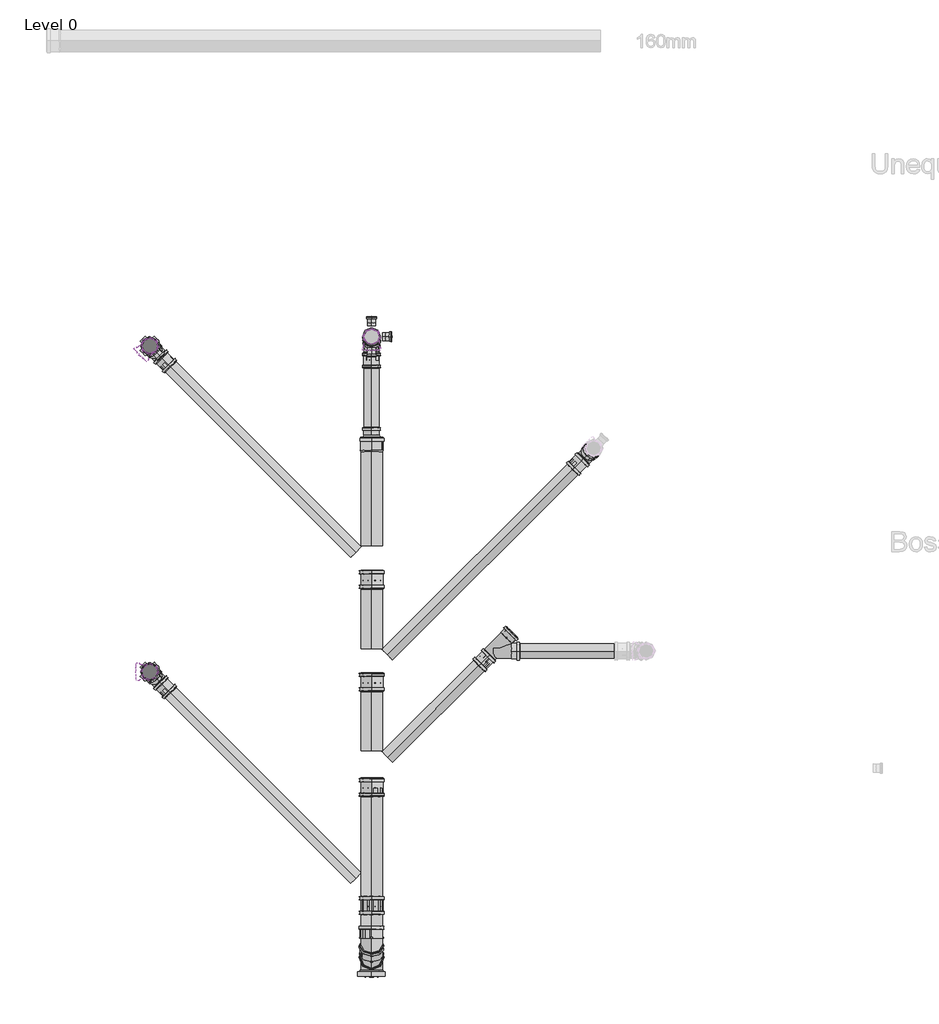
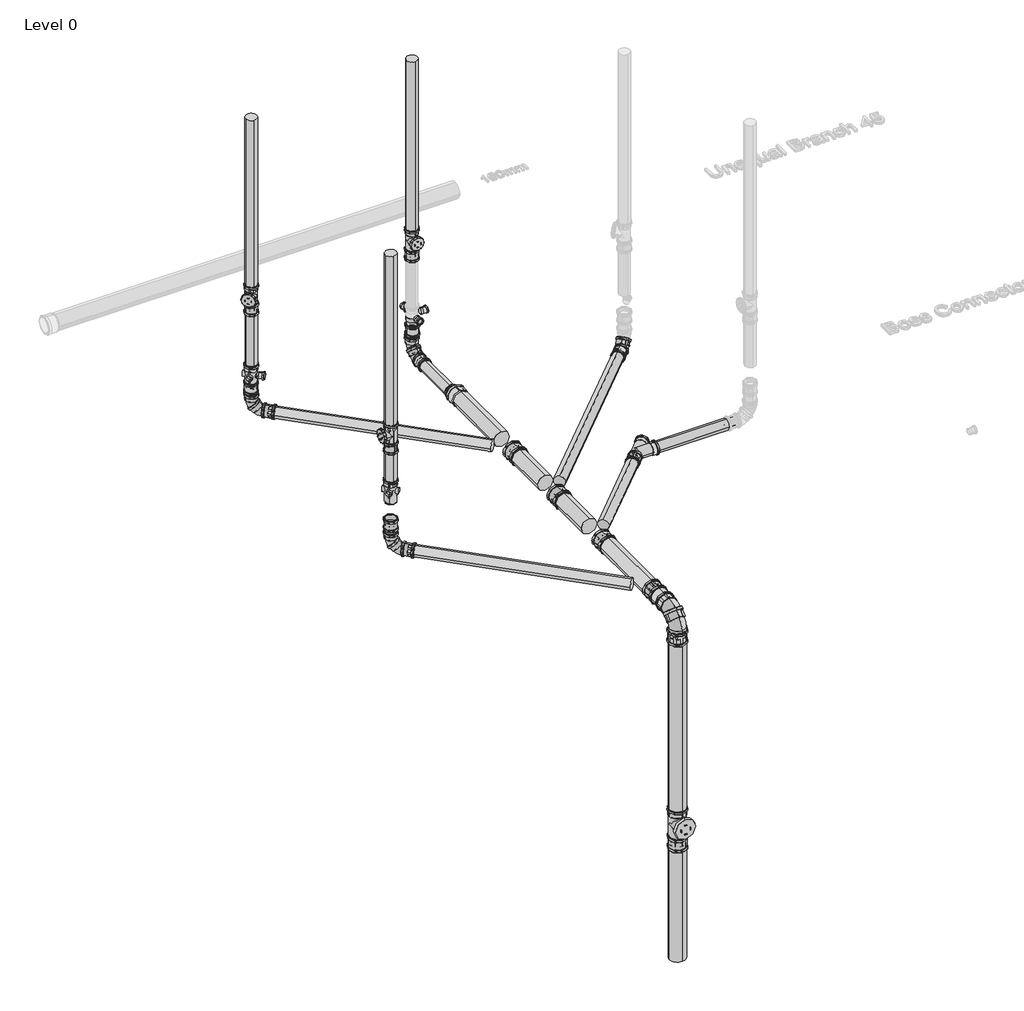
# One storey, part 1 of 15: 71 pipe fittings.
"""IFC4 building model written with IfcOpenShell, lengths in millimetres."""

from ifc_helpers import new_model, si_unit, point, frame, frame_2d, origin, place, context, project, spatial, circle_curve, trimmed, segment, composite_curve, outline, extrude, transform, mapped, element, save
from components import pipe_fitting_d93e64ae, pipe_fitting_af558869, pipe_fitting_f7358239, pipe_fitting_485433b0, pipe_fitting_680307cb, pipe_fitting_c605c0b5, pipe_fitting_f85930d2, pipe_fitting_5ae2cbee, pipe_fitting_27dfb203, pipe_fitting_538f6d23, pipe_fitting_d6a3997c, sa420xbl_50mm_blue_6babe31f

model = new_model("IFC4")

# Units and contexts
model_context = context("Model", 3, world=origin())
ifc_project = project(units=[si_unit("LENGTHUNIT", "METRE", prefix="MILLI")], contexts=[model_context])

# Site, building, storey
site = spatial("IfcSite", under=ifc_project)
building = spatial("IfcBuilding", under=site)
storey = spatial("IfcBuildingStorey", under=building, Name="Level 0", Elevation=0.0)

# Pipe fittings
placement = place(None, origin())
element("IfcPipeFitting", 1, ObjectType="Marley dBlue - PP Push-fit soil - Blue", at=placement, inside=storey, context=model_context, shape_type="SweptSolid", body=[
    extrude(outline(composite_curve([segment(trimmed(circle_curve(frame_2d((228.0709445, -25599.2159271)), 80.0), [point((228.0709445, -25519.2159271))], [point((308.0709445, -25599.2159271))], False, "CARTESIAN"), True, "CONTINUOUS"), segment(trimmed(circle_curve(frame_2d((228.0709445, -25599.2159271)), 80.0), [point((308.0709445, -25599.2159271))], [point((228.0709445, -25679.2159271))], False, "CARTESIAN"), True, "CONTINUOUS"), segment(trimmed(circle_curve(frame_2d((228.0709445, -25599.2159271)), 80.0), [point((228.0709445, -25679.2159271))], [point((148.0709445, -25599.2159271))], False, "CARTESIAN"), True, "CONTINUOUS"), segment(trimmed(circle_curve(frame_2d((228.0709445, -25599.2159271)), 80.0), [point((148.0709445, -25599.2159271))], [point((228.0709445, -25519.2159271))], False, "CARTESIAN"), True, "CONTINUOUS")], self_intersect=False)), frame((0.0, 3746.7145219, 0.0), z_axis=(0.0, 1.0, 0.0), x_axis=(0.0, 0.0, 1.0)), (0.0, 0.0, 1.0), 696.8955071),
])
element("IfcPipeFitting", 2, ObjectType="Marley dBlue - PP Push-fit soil - Blue", at=placement, inside=storey, context=model_context, shape_type="SweptSolid", body=[
    extrude(outline(composite_curve([segment(trimmed(circle_curve(frame_2d((203.0709445, -25599.2159271)), 55.0), [point((203.0709445, -25544.2159271))], [point((258.0709445, -25599.2159271))], False, "CARTESIAN"), True, "CONTINUOUS"), segment(trimmed(circle_curve(frame_2d((203.0709445, -25599.2159271)), 55.0), [point((258.0709445, -25599.2159271))], [point((203.0709445, -25654.2159271))], False, "CARTESIAN"), True, "CONTINUOUS"), segment(trimmed(circle_curve(frame_2d((203.0709445, -25599.2159271)), 55.0), [point((203.0709445, -25654.2159271))], [point((148.0709445, -25599.2159271))], False, "CARTESIAN"), True, "CONTINUOUS"), segment(trimmed(circle_curve(frame_2d((203.0709445, -25599.2159271)), 55.0), [point((148.0709445, -25599.2159271))], [point((203.0709445, -25544.2159271))], False, "CARTESIAN"), True, "CONTINUOUS")], self_intersect=False)), frame((0.0, 4569.610029, 0.0), z_axis=(0.0, 1.0, 0.0), x_axis=(0.0, 0.0, 1.0)), (0.0, 0.0, 1.0), 553.8617476),
])
element("IfcPipeFitting", 3, ObjectType="Marley dBlue - PP Push-fit soil - Blue", at=placement, inside=storey, context=model_context, shape_type="SweptSolid", body=[
    extrude(outline(composite_curve([segment(trimmed(circle_curve(frame_2d((-25599.2159271, 5296.9389094)), 55.0), [point((-25654.2159271, 5296.9389094))], [point((-25599.2159271, 5351.9389094))], False, "CARTESIAN"), True, "CONTINUOUS"), segment(trimmed(circle_curve(frame_2d((-25599.2159271, 5296.9389094)), 55.0), [point((-25599.2159271, 5351.9389094))], [point((-25544.2159271, 5296.9389094))], False, "CARTESIAN"), True, "CONTINUOUS"), segment(trimmed(circle_curve(frame_2d((-25599.2159271, 5296.9389094)), 55.0), [point((-25544.2159271, 5296.9389094))], [point((-25599.2159271, 5241.9389094))], False, "CARTESIAN"), True, "CONTINUOUS"), segment(trimmed(circle_curve(frame_2d((-25599.2159271, 5296.9389094)), 55.0), [point((-25599.2159271, 5241.9389094))], [point((-25654.2159271, 5296.9389094))], False, "CARTESIAN"), True, "CONTINUOUS")], self_intersect=False)), frame((0.0, 0.0, 1464.5709445), z_axis=(0.0, 0.0, 1.0), x_axis=(1.0, 0.0, 0.0)), (0.0, 0.0, 1.0), 1843.8947311),
])
element("IfcPipeFitting", 4, ObjectType="Marley dBlue - PP Push-fit soil - Blue", at=placement, inside=storey, context=model_context, shape_type="SweptSolid", body=[
    extrude(outline(composite_curve([segment(trimmed(circle_curve(frame_2d((228.0709445, -25599.2159271)), 80.0), [point((228.0709445, -25519.2159271))], [point((308.0709445, -25599.2159271))], False, "CARTESIAN"), True, "CONTINUOUS"), segment(trimmed(circle_curve(frame_2d((228.0709445, -25599.2159271)), 80.0), [point((308.0709445, -25599.2159271))], [point((228.0709445, -25679.2159271))], False, "CARTESIAN"), True, "CONTINUOUS"), segment(trimmed(circle_curve(frame_2d((228.0709445, -25599.2159271)), 80.0), [point((228.0709445, -25679.2159271))], [point((148.0709445, -25599.2159271))], False, "CARTESIAN"), True, "CONTINUOUS"), segment(trimmed(circle_curve(frame_2d((228.0709445, -25599.2159271)), 80.0), [point((148.0709445, -25599.2159271))], [point((228.0709445, -25519.2159271))], False, "CARTESIAN"), True, "CONTINUOUS")], self_intersect=False)), frame((0.0, 2734.0478553, 0.0), z_axis=(0.0, 1.0, 0.0), x_axis=(0.0, 0.0, 1.0)), (0.0, 0.0, 1.0), 3.6666667),
])
element("IfcPipeFitting", 5, ObjectType="Marley dBlue - PP Push-fit soil - Blue", at=placement, inside=storey, context=model_context, shape_type="SweptSolid", body=[
    extrude(outline(composite_curve([segment(trimmed(circle_curve(frame_2d((228.0709445, -25599.2159271)), 80.0), [point((228.0709445, -25519.2159271))], [point((308.0709445, -25599.2159271))], False, "CARTESIAN"), True, "CONTINUOUS"), segment(trimmed(circle_curve(frame_2d((228.0709445, -25599.2159271)), 80.0), [point((308.0709445, -25599.2159271))], [point((228.0709445, -25679.2159271))], False, "CARTESIAN"), True, "CONTINUOUS"), segment(trimmed(circle_curve(frame_2d((228.0709445, -25599.2159271)), 80.0), [point((228.0709445, -25679.2159271))], [point((148.0709445, -25599.2159271))], False, "CARTESIAN"), True, "CONTINUOUS"), segment(trimmed(circle_curve(frame_2d((228.0709445, -25599.2159271)), 80.0), [point((148.0709445, -25599.2159271))], [point((228.0709445, -25519.2159271))], False, "CARTESIAN"), True, "CONTINUOUS")], self_intersect=False)), frame((0.0, 3494.0478553, 0.0), z_axis=(0.0, 1.0, 0.0), x_axis=(0.0, 0.0, 1.0)), (0.0, 0.0, 1.0), 3.6666667),
])
element("IfcPipeFitting", 6, ObjectType="Marley dBlue - PP Push-fit soil - Blue", at=placement, inside=storey, context=model_context, shape_type="SweptSolid", body=[
    extrude(outline(composite_curve([segment(trimmed(circle_curve(frame_2d((0.0, 55.0)), 55.0), [point((55.0, 54.999201))], [point((-0.000799, 0.0))], False, "CARTESIAN"), True, "CONTINUOUS"), segment(trimmed(circle_curve(frame_2d((0.0, 55.0)), 55.0), [point((-0.000799, 0.0))], [point((-55.0, 55.000799))], False, "CARTESIAN"), True, "CONTINUOUS"), segment(trimmed(circle_curve(frame_2d((0.0, 55.0)), 55.0), [point((-55.0, 55.000799))], [point((0.000799, 110.0))], False, "CARTESIAN"), True, "CONTINUOUS"), segment(trimmed(circle_curve(frame_2d((0.0, 55.0)), 55.0), [point((0.000799, 110.0))], [point((55.0, 54.999201))], False, "CARTESIAN"), True, "CONTINUOUS")], self_intersect=False)), frame((-25482.5433082, 2940.8860108, 283.0709445), z_axis=(0.7071067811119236, 0.7071067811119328, 1.4527745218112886e-05), x_axis=(0.7071067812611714, -0.7071067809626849, -1.4527745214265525e-05)), (0.0, 0.0, 1.0), 1995.5833335),
])
element("IfcPipeFitting", 7, ObjectType="Marley dBlue - PP Push-fit soil - Blue", at=placement, inside=storey, context=model_context, shape_type="SweptSolid", body=[
    extrude(outline(composite_curve([segment(trimmed(circle_curve(frame_2d((0.0, 55.0)), 55.0), [point((55.0, 55.000799))], [point((0.000799, 0.0))], False, "CARTESIAN"), True, "CONTINUOUS"), segment(trimmed(circle_curve(frame_2d((0.0, 55.0)), 55.0), [point((0.000799, 0.0))], [point((-55.0, 54.999201))], False, "CARTESIAN"), True, "CONTINUOUS"), segment(trimmed(circle_curve(frame_2d((0.0, 55.0)), 55.0), [point((-55.0, 54.999201))], [point((-0.000799, 110.0))], False, "CARTESIAN"), True, "CONTINUOUS"), segment(trimmed(circle_curve(frame_2d((0.0, 55.0)), 55.0), [point((-0.000799, 110.0))], [point((55.0, 55.000799))], False, "CARTESIAN"), True, "CONTINUOUS")], self_intersect=False)), frame((-25715.888546, 3700.8860108, 283.0709445), z_axis=(-0.7071067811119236, 0.7071067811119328, 1.4527745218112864e-05), x_axis=(0.7071067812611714, 0.7071067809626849, 1.4527745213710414e-05)), (0.0, 0.0, 1.0), 1995.5833335),
])
element("IfcPipeFitting", 8, ObjectType="Marley dBlue - PP Push-fit soil - Blue", at=placement, inside=storey, context=model_context, shape_type="SweptSolid", body=[
    extrude(outline(composite_curve([segment(trimmed(circle_curve(frame_2d((0.0, 55.0)), 55.0), [point((-55.0, 55.0))], [point((0.0, 110.0))], False, "CARTESIAN"), True, "CONTINUOUS"), segment(trimmed(circle_curve(frame_2d((0.0, 55.0)), 55.0), [point((0.0, 110.0))], [point((55.0, 55.0))], False, "CARTESIAN"), True, "CONTINUOUS"), segment(trimmed(circle_curve(frame_2d((0.0, 55.0)), 55.0), [point((55.0, 55.0))], [point((0.0, 0.0))], False, "CARTESIAN"), True, "CONTINUOUS"), segment(trimmed(circle_curve(frame_2d((0.0, 55.0)), 55.0), [point((0.0, 0.0))], [point((-55.0, 55.0))], False, "CARTESIAN"), True, "CONTINUOUS")], self_intersect=False)), frame((-27244.0631407, 5174.0585673, 1489.6005161), z_axis=(2.485051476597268e-06, 0.0, 0.9999999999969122), x_axis=(0.9999999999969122, 0.0, -2.485051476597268e-06)), (0.0, 0.0, 1.0), 1818.8651596),
])
element("IfcPipeFitting", 9, ObjectType="Marley dBlue - PP Push-fit soil - Blue", at=placement, inside=storey, context=model_context, shape_type="SweptSolid", body=[
    extrude(outline(composite_curve([segment(trimmed(circle_curve(frame_2d((0.0, 55.0)), 55.0), [point((-54.9999999, 55.0))], [point((0.0, 110.0))], False, "CARTESIAN"), True, "CONTINUOUS"), segment(trimmed(circle_curve(frame_2d((0.0, 55.0)), 55.0), [point((0.0, 110.0))], [point((55.0, 55.0))], False, "CARTESIAN"), True, "CONTINUOUS"), segment(trimmed(circle_curve(frame_2d((0.0, 55.0)), 55.0), [point((55.0, 55.0))], [point((0.0, 0.0))], False, "CARTESIAN"), True, "CONTINUOUS"), segment(trimmed(circle_curve(frame_2d((0.0, 55.0)), 55.0), [point((0.0, 0.0))], [point((-54.9999999, 55.0))], False, "CARTESIAN"), True, "CONTINUOUS")], self_intersect=False)), frame((-27244.0627369, 5174.0585673, 1296.410419), z_axis=(-3.182611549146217e-05, 0.0, 0.9999999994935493), x_axis=(0.9999999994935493, 0.0, 3.182611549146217e-05)), (0.0, 0.0, 1.0), 12.690097),
])
element("IfcPipeFitting", 10, ObjectType="Marley dBlue - PP Push-fit soil - Blue", at=placement, inside=storey, context=model_context, shape_type="SweptSolid", body=[
    extrude(outline(composite_curve([segment(trimmed(circle_curve(frame_2d((-25599.2159271, 5296.9389094)), 55.0), [point((-25654.2159271, 5296.9389094))], [point((-25599.2159271, 5351.9389094))], False, "CARTESIAN"), True, "CONTINUOUS"), segment(trimmed(circle_curve(frame_2d((-25599.2159271, 5296.9389094)), 55.0), [point((-25599.2159271, 5351.9389094))], [point((-25544.2159271, 5296.9389094))], False, "CARTESIAN"), True, "CONTINUOUS"), segment(trimmed(circle_curve(frame_2d((-25599.2159271, 5296.9389094)), 55.0), [point((-25544.2159271, 5296.9389094))], [point((-25599.2159271, 5241.9389094))], False, "CARTESIAN"), True, "CONTINUOUS"), segment(trimmed(circle_curve(frame_2d((-25599.2159271, 5296.9389094)), 55.0), [point((-25599.2159271, 5241.9389094))], [point((-25654.2159271, 5296.9389094))], False, "CARTESIAN"), True, "CONTINUOUS")], self_intersect=False)), frame((0.0, 0.0, 1249.1584915), z_axis=(0.0, 0.0, 1.0), x_axis=(1.0, 0.0, 0.0)), (0.0, 0.0, 1.0), 34.912453),
])
element("IfcPipeFitting", 11, ObjectType="Marley dBlue - PP Push-fit soil - Blue", at=placement, inside=storey, context=model_context, shape_type="SweptSolid", body=[
    extrude(outline(composite_curve([segment(trimmed(circle_curve(frame_2d((-27244.0586208, 5229.0585673)), 55.0), [point((-27299.0586208, 5229.0585673))], [point((-27244.0586208, 5284.0585673))], False, "CARTESIAN"), True, "CONTINUOUS"), segment(trimmed(circle_curve(frame_2d((-27244.0586208, 5229.0585673)), 55.0), [point((-27244.0586208, 5284.0585673))], [point((-27189.0586208, 5229.0585673))], False, "CARTESIAN"), True, "CONTINUOUS"), segment(trimmed(circle_curve(frame_2d((-27244.0586208, 5229.0585673)), 55.0), [point((-27189.0586208, 5229.0585673))], [point((-27244.0586208, 5174.0585673))], False, "CARTESIAN"), True, "CONTINUOUS"), segment(trimmed(circle_curve(frame_2d((-27244.0586208, 5229.0585673)), 55.0), [point((-27244.0586208, 5174.0585673))], [point((-27299.0586208, 5229.0585673))], False, "CARTESIAN"), True, "CONTINUOUS")], self_intersect=False)), frame((0.0, 0.0, 331.2114085), z_axis=(0.0, 0.0, 1.0), x_axis=(1.0, 0.0, 0.0)), (0.0, 0.0, 1.0), 136.5851086),
])
element("IfcPipeFitting", 12, ObjectType="Marley dBlue - PP Push-fit soil - Blue", at=placement, inside=storey, context=model_context, shape_type="SweptSolid", body=[
    extrude(outline(composite_curve([segment(trimmed(circle_curve(frame_2d((0.0, 55.0)), 55.0), [point((-55.0, 55.0))], [point((0.0, 110.0))], False, "CARTESIAN"), True, "CONTINUOUS"), segment(trimmed(circle_curve(frame_2d((0.0, 55.0)), 55.0), [point((0.0, 110.0))], [point((55.0, 55.0))], False, "CARTESIAN"), True, "CONTINUOUS"), segment(trimmed(circle_curve(frame_2d((0.0, 55.0)), 55.0), [point((55.0, 55.0))], [point((0.0, 0.0))], False, "CARTESIAN"), True, "CONTINUOUS"), segment(trimmed(circle_curve(frame_2d((0.0, 55.0)), 55.0), [point((0.0, 0.0))], [point((-55.0, 55.0))], False, "CARTESIAN"), True, "CONTINUOUS")], self_intersect=False)), frame((-27244.0586208, 5174.0585673, 644.2965171), z_axis=(-6.324861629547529e-06, 0.0, 0.9999999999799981), x_axis=(0.9999999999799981, 0.0, 6.324861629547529e-06)), (0.0, 0.0, 1.0), 650.7805686),
])
element("IfcPipeFitting", 13, ObjectType="Marley dBlue - PP Push-fit soil - Blue", at=placement, inside=storey, context=model_context, shape_type="SweptSolid", body=[
    extrude(outline(composite_curve([segment(trimmed(circle_curve(frame_2d((-25599.2159271, 5296.9389094)), 55.0), [point((-25544.2159271, 5296.9389094))], [point((-25599.2159271, 5241.9389094))], False, "CARTESIAN"), True, "CONTINUOUS"), segment(trimmed(circle_curve(frame_2d((-25599.2159271, 5296.9389094)), 55.0), [point((-25599.2159271, 5241.9389094))], [point((-25654.2159271, 5296.9389094))], False, "CARTESIAN"), True, "CONTINUOUS"), segment(trimmed(circle_curve(frame_2d((-25599.2159271, 5296.9389094)), 55.0), [point((-25654.2159271, 5296.9389094))], [point((-25599.2159271, 5351.9389094))], False, "CARTESIAN"), True, "CONTINUOUS"), segment(trimmed(circle_curve(frame_2d((-25599.2159271, 5296.9389094)), 55.0), [point((-25599.2159271, 5351.9389094))], [point((-25544.2159271, 5296.9389094))], False, "CARTESIAN"), True, "CONTINUOUS")], self_intersect=False)), frame((0.0, 0.0, 317.8826282), z_axis=(0.0, 0.0, 1.0), x_axis=(1.0, 0.0, 0.0)), (0.0, 0.0, 1.0), 136.0902067),
])
element("IfcPipeFitting", 14, ObjectType="Marley dBlue - PP Push-fit soil - Blue", at=placement, inside=storey, context=model_context, shape_type="SweptSolid", body=[
    extrude(outline(composite_curve([segment(trimmed(circle_curve(frame_2d((-25599.2159271, 700.2145219)), 80.0), [point((-25679.2159271, 700.2145219))], [point((-25599.2159271, 780.2145219))], False, "CARTESIAN"), True, "CONTINUOUS"), segment(trimmed(circle_curve(frame_2d((-25599.2159271, 700.2145219)), 80.0), [point((-25599.2159271, 780.2145219))], [point((-25519.2159271, 700.2145219))], False, "CARTESIAN"), True, "CONTINUOUS"), segment(trimmed(circle_curve(frame_2d((-25599.2159271, 700.2145219)), 80.0), [point((-25519.2159271, 700.2145219))], [point((-25599.2159271, 620.2145219))], False, "CARTESIAN"), True, "CONTINUOUS"), segment(trimmed(circle_curve(frame_2d((-25599.2159271, 700.2145219)), 80.0), [point((-25599.2159271, 620.2145219))], [point((-25679.2159271, 700.2145219))], False, "CARTESIAN"), True, "CONTINUOUS")], self_intersect=False)), frame((0.0, 0.0, -1884.2431569), z_axis=(0.0, 0.0, 1.0), x_axis=(1.0, 0.0, 0.0)), (0.0, 0.0, 1.0), 1891.0472165),
])
element("IfcPipeFitting", 15, ObjectType="Marley dBlue - PP Push-fit soil - Blue", at=placement, inside=storey, context=model_context, shape_type="SweptSolid", body=[
    extrude(outline(composite_curve([segment(trimmed(circle_curve(frame_2d((-25599.2159271, 700.2145219)), 80.0), [point((-25679.2159271, 700.2145219))], [point((-25599.2159271, 780.2145219))], False, "CARTESIAN"), True, "CONTINUOUS"), segment(trimmed(circle_curve(frame_2d((-25599.2159271, 700.2145219)), 80.0), [point((-25599.2159271, 780.2145219))], [point((-25519.2159271, 700.2145219))], False, "CARTESIAN"), True, "CONTINUOUS"), segment(trimmed(circle_curve(frame_2d((-25599.2159271, 700.2145219)), 80.0), [point((-25519.2159271, 700.2145219))], [point((-25599.2159271, 620.2145219))], False, "CARTESIAN"), True, "CONTINUOUS"), segment(trimmed(circle_curve(frame_2d((-25599.2159271, 700.2145219)), 80.0), [point((-25599.2159271, 620.2145219))], [point((-25679.2159271, 700.2145219))], False, "CARTESIAN"), True, "CONTINUOUS")], self_intersect=False)), frame((0.0, 0.0, -2177.5919125), z_axis=(0.0, 0.0, 1.0), x_axis=(1.0, 0.0, 0.0)), (0.0, 0.0, 1.0), 26.8487556),
])
element("IfcPipeFitting", 16, ObjectType="Marley dBlue - PP Push-fit soil - Blue", at=placement, inside=storey, context=model_context, shape_type="SweptSolid", body=[
    extrude(outline(composite_curve([segment(trimmed(circle_curve(frame_2d((-25599.2159271, 700.2145219)), 80.0), [point((-25679.2159271, 700.2145219))], [point((-25599.2159271, 780.2145219))], False, "CARTESIAN"), True, "CONTINUOUS"), segment(trimmed(circle_curve(frame_2d((-25599.2159271, 700.2145219)), 80.0), [point((-25599.2159271, 780.2145219))], [point((-25519.2159271, 700.2145219))], False, "CARTESIAN"), True, "CONTINUOUS"), segment(trimmed(circle_curve(frame_2d((-25599.2159271, 700.2145219)), 80.0), [point((-25519.2159271, 700.2145219))], [point((-25599.2159271, 620.2145219))], False, "CARTESIAN"), True, "CONTINUOUS"), segment(trimmed(circle_curve(frame_2d((-25599.2159271, 700.2145219)), 80.0), [point((-25599.2159271, 620.2145219))], [point((-25679.2159271, 700.2145219))], False, "CARTESIAN"), True, "CONTINUOUS")], self_intersect=False)), frame((0.0, 0.0, -3400.0), z_axis=(0.0, 0.0, 1.0), x_axis=(1.0, 0.0, 0.0)), (0.0, 0.0, 1.0), 1218.7414208),
])
element("IfcPipeFitting", 17, ObjectType="Marley dBlue - PP Push-fit soil - Blue", at=placement, inside=storey, context=model_context, shape_type="SweptSolid", body=[
    extrude(outline(composite_curve([segment(trimmed(circle_curve(frame_2d((228.0709445, -25599.2159271)), 80.0), [point((228.0709445, -25519.2159271))], [point((308.0709445, -25599.2159271))], False, "CARTESIAN"), True, "CONTINUOUS"), segment(trimmed(circle_curve(frame_2d((228.0709445, -25599.2159271)), 80.0), [point((308.0709445, -25599.2159271))], [point((228.0709445, -25679.2159271))], False, "CARTESIAN"), True, "CONTINUOUS"), segment(trimmed(circle_curve(frame_2d((228.0709445, -25599.2159271)), 80.0), [point((228.0709445, -25679.2159271))], [point((148.0709445, -25599.2159271))], False, "CARTESIAN"), True, "CONTINUOUS"), segment(trimmed(circle_curve(frame_2d((228.0709445, -25599.2159271)), 80.0), [point((148.0709445, -25599.2159271))], [point((228.0709445, -25519.2159271))], False, "CARTESIAN"), True, "CONTINUOUS")], self_intersect=False)), frame((0.0, 1954.4986268, 0.0), z_axis=(0.0, 1.0, 0.0), x_axis=(0.0, 0.0, 1.0)), (0.0, 0.0, 1.0), 25.2841049),
])
element("IfcPipeFitting", 18, ObjectType="Marley dBlue - PP Push-fit soil - Blue", at=placement, inside=storey, context=model_context, shape_type="SweptSolid", body=[
    extrude(outline(composite_curve([segment(trimmed(circle_curve(frame_2d((0.0, 55.0)), 55.0), [point((54.9999999, 55.0))], [point((0.0, 0.0))], False, "CARTESIAN"), True, "CONTINUOUS"), segment(trimmed(circle_curve(frame_2d((0.0, 55.0)), 55.0), [point((0.0, 0.0))], [point((-55.0, 55.0))], False, "CARTESIAN"), True, "CONTINUOUS"), segment(trimmed(circle_curve(frame_2d((0.0, 55.0)), 55.0), [point((-55.0, 55.0))], [point((0.0, 110.0))], False, "CARTESIAN"), True, "CONTINUOUS"), segment(trimmed(circle_curve(frame_2d((0.0, 55.0)), 55.0), [point((0.0, 110.0))], [point((54.9999999, 55.0))], False, "CARTESIAN"), True, "CONTINUOUS")], self_intersect=False)), frame((-24765.2843211, 2900.2143374, 283.0947072), z_axis=(0.7071067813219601, 0.707106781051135, 0.0), x_axis=(0.707106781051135, -0.7071067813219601, 0.0)), (0.0, 0.0, 1.0), 8.190531),
])
element("IfcPipeFitting", 19, ObjectType="Marley dBlue - PP Push-fit soil - Blue", at=placement, inside=storey, context=model_context, shape_type="SweptSolid", body=[
    extrude(outline(composite_curve([segment(trimmed(circle_curve(frame_2d((2968.2313141, 228.101408)), 55.0), [point((2913.2313141, 228.101408))], [point((2968.2313141, 283.101408))], False, "CARTESIAN"), True, "CONTINUOUS"), segment(trimmed(circle_curve(frame_2d((2968.2313141, 228.101408)), 55.0), [point((2968.2313141, 283.101408))], [point((3023.2313141, 228.101408))], False, "CARTESIAN"), True, "CONTINUOUS"), segment(trimmed(circle_curve(frame_2d((2968.2313141, 228.101408)), 55.0), [point((3023.2313141, 228.101408))], [point((2968.2313141, 173.101408))], False, "CARTESIAN"), True, "CONTINUOUS"), segment(trimmed(circle_curve(frame_2d((2968.2313141, 228.101408)), 55.0), [point((2968.2313141, 173.101408))], [point((2913.2313141, 228.101408))], False, "CARTESIAN"), True, "CONTINUOUS")], self_intersect=False)), frame((-24561.2673444, 0.0, 0.0), z_axis=(1.0, 0.0, 0.0), x_axis=(0.0, 1.0, 0.0)), (0.0, 0.0, 1.0), 820.0),
])
element("IfcPipeFitting", 20, ObjectType="Marley dBlue - PP Push-fit soil - Blue", at=placement, inside=storey, context=model_context, shape_type="SweptSolid", body=[
    extrude(outline(composite_curve([segment(trimmed(circle_curve(frame_2d((228.0709445, -25599.2159271)), 80.0), [point((228.0709445, -25519.2159271))], [point((308.0709445, -25599.2159271))], False, "CARTESIAN"), True, "CONTINUOUS"), segment(trimmed(circle_curve(frame_2d((228.0709445, -25599.2159271)), 80.0), [point((308.0709445, -25599.2159271))], [point((228.0709445, -25679.2159271))], False, "CARTESIAN"), True, "CONTINUOUS"), segment(trimmed(circle_curve(frame_2d((228.0709445, -25599.2159271)), 80.0), [point((228.0709445, -25679.2159271))], [point((148.0709445, -25599.2159271))], False, "CARTESIAN"), True, "CONTINUOUS"), segment(trimmed(circle_curve(frame_2d((228.0709445, -25599.2159271)), 80.0), [point((148.0709445, -25599.2159271))], [point((228.0709445, -25519.2159271))], False, "CARTESIAN"), True, "CONTINUOUS")], self_intersect=False)), frame((0.0, 2986.7145219, 0.0), z_axis=(0.0, 1.0, 0.0), x_axis=(0.0, 0.0, 1.0)), (0.0, 0.0, 1.0), 503.6666667),
])
element("IfcPipeFitting", 21, ObjectType="Marley dBlue - PP Push-fit soil - Blue", at=placement, inside=storey, context=model_context, shape_type="SweptSolid", body=[
    extrude(outline(composite_curve([segment(trimmed(circle_curve(frame_2d((228.0709445, -25599.2159271)), 80.0), [point((228.0709445, -25519.2159271))], [point((308.0709445, -25599.2159271))], False, "CARTESIAN"), True, "CONTINUOUS"), segment(trimmed(circle_curve(frame_2d((228.0709445, -25599.2159271)), 80.0), [point((308.0709445, -25599.2159271))], [point((228.0709445, -25679.2159271))], False, "CARTESIAN"), True, "CONTINUOUS"), segment(trimmed(circle_curve(frame_2d((228.0709445, -25599.2159271)), 80.0), [point((228.0709445, -25679.2159271))], [point((148.0709445, -25599.2159271))], False, "CARTESIAN"), True, "CONTINUOUS"), segment(trimmed(circle_curve(frame_2d((228.0709445, -25599.2159271)), 80.0), [point((148.0709445, -25599.2159271))], [point((228.0709445, -25519.2159271))], False, "CARTESIAN"), True, "CONTINUOUS")], self_intersect=False)), frame((0.0, 2228.7827317, 0.0), z_axis=(0.0, 1.0, 0.0), x_axis=(0.0, 0.0, 1.0)), (0.0, 0.0, 1.0), 501.5984569),
])
element("IfcPipeFitting", 22, ObjectType="Marley dBlue - PP Push-fit soil - Blue", at=placement, inside=storey, context=model_context, shape_type="SweptSolid", body=[
    extrude(outline(composite_curve([segment(trimmed(circle_curve(frame_2d((228.0709445, -25599.2159271)), 80.0), [point((228.0709445, -25519.2159271))], [point((308.0709445, -25599.2159271))], False, "CARTESIAN"), True, "CONTINUOUS"), segment(trimmed(circle_curve(frame_2d((228.0709445, -25599.2159271)), 80.0), [point((308.0709445, -25599.2159271))], [point((228.0709445, -25679.2159271))], False, "CARTESIAN"), True, "CONTINUOUS"), segment(trimmed(circle_curve(frame_2d((228.0709445, -25599.2159271)), 80.0), [point((228.0709445, -25679.2159271))], [point((148.0709445, -25599.2159271))], False, "CARTESIAN"), True, "CONTINUOUS"), segment(trimmed(circle_curve(frame_2d((228.0709445, -25599.2159271)), 80.0), [point((148.0709445, -25599.2159271))], [point((228.0709445, -25519.2159271))], False, "CARTESIAN"), True, "CONTINUOUS")], self_intersect=False)), frame((0.0, 840.4363447, 0.0), z_axis=(0.0, 1.0, 0.0), x_axis=(0.0, 0.0, 1.0)), (0.0, 0.0, 1.0), 1110.3956154),
])
element("IfcPipeFitting", 23, ObjectType="Marley dBlue - PP Push-fit soil - Blue", at=placement, inside=storey, context=model_context, shape_type="SweptSolid", body=[
    extrude(outline(composite_curve([segment(trimmed(circle_curve(frame_2d((0.0, 54.9999999)), 55.0), [point((55.0, 54.9989292))], [point((-0.0010707, 0.0))], False, "CARTESIAN"), True, "CONTINUOUS"), segment(trimmed(circle_curve(frame_2d((0.0, 54.9999999)), 55.0), [point((-0.0010707, 0.0))], [point((-54.9999999, 55.0010707))], False, "CARTESIAN"), True, "CONTINUOUS"), segment(trimmed(circle_curve(frame_2d((0.0, 54.9999999)), 55.0), [point((-54.9999999, 55.0010707))], [point((0.0010707, 109.9999999))], False, "CARTESIAN"), True, "CONTINUOUS"), segment(trimmed(circle_curve(frame_2d((0.0, 54.9999999)), 55.0), [point((0.0010707, 109.9999999))], [point((55.0, 54.9989292))], False, "CARTESIAN"), True, "CONTINUOUS")], self_intersect=False)), frame((-25482.5433083, 2182.9538363, 283.0749563), z_axis=(0.7071067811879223, 0.7071067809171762, 1.946804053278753e-05), x_axis=(0.7071067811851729, -0.7071067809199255, -1.94680405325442e-05)), (0.0, 0.0, 1.0), 1013.024054),
])
element("IfcPipeFitting", 24, ObjectType="Marley dBlue - PP Push-fit soil - Blue", at=placement, inside=storey, context=model_context, shape_type="SweptSolid", body=[
    extrude(outline(composite_curve([segment(trimmed(circle_curve(frame_2d((-25599.2159271, 5296.9389094)), 55.0), [point((-25544.2159271, 5296.9389094))], [point((-25599.2159271, 5241.9389094))], False, "CARTESIAN"), True, "CONTINUOUS"), segment(trimmed(circle_curve(frame_2d((-25599.2159271, 5296.9389094)), 55.0), [point((-25599.2159271, 5241.9389094))], [point((-25654.2159271, 5296.9389094))], False, "CARTESIAN"), True, "CONTINUOUS"), segment(trimmed(circle_curve(frame_2d((-25599.2159271, 5296.9389094)), 55.0), [point((-25654.2159271, 5296.9389094))], [point((-25599.2159271, 5351.9389094))], False, "CARTESIAN"), True, "CONTINUOUS"), segment(trimmed(circle_curve(frame_2d((-25599.2159271, 5296.9389094)), 55.0), [point((-25599.2159271, 5351.9389094))], [point((-25544.2159271, 5296.9389094))], False, "CARTESIAN"), True, "CONTINUOUS")], self_intersect=False)), frame((0.0, 0.0, 550.972835), z_axis=(0.0, 0.0, 1.0), x_axis=(1.0, 0.0, 0.0)), (0.0, 0.0, 1.0), 41.7376113),
])
element("IfcPipeFitting", 25, ObjectType="Marley dBlue - PP Push-fit soil - Blue", at=placement, inside=storey, context=model_context, shape_type="SweptSolid", body=[
    extrude(outline(composite_curve([segment(trimmed(circle_curve(frame_2d((228.0709445, -25599.2159271)), 80.0), [point((228.0709445, -25519.2159271))], [point((308.0709445, -25599.2159271))], False, "CARTESIAN"), True, "CONTINUOUS"), segment(trimmed(circle_curve(frame_2d((228.0709445, -25599.2159271)), 80.0), [point((308.0709445, -25599.2159271))], [point((228.0709445, -25679.2159271))], False, "CARTESIAN"), True, "CONTINUOUS"), segment(trimmed(circle_curve(frame_2d((228.0709445, -25599.2159271)), 80.0), [point((228.0709445, -25679.2159271))], [point((148.0709445, -25599.2159271))], False, "CARTESIAN"), True, "CONTINUOUS"), segment(trimmed(circle_curve(frame_2d((228.0709445, -25599.2159271)), 80.0), [point((148.0709445, -25599.2159271))], [point((228.0709445, -25519.2159271))], False, "CARTESIAN"), True, "CONTINUOUS")], self_intersect=False)), frame((0.0, 1079.1001017, 0.0), z_axis=(0.0, 1.0, 0.0), x_axis=(0.0, 0.0, 1.0)), (0.0, 0.0, 1.0), 3.6666667),
])
element("IfcPipeFitting", 26, ObjectType="Marley dBlue - PP Push-fit soil - Blue", at=placement, inside=storey, context=model_context, shape_type="SweptSolid", body=[
    extrude(outline(composite_curve([segment(trimmed(circle_curve(frame_2d((0.0, 55.0)), 55.0), [point((55.0, 55.000799))], [point((0.000799, 0.0))], False, "CARTESIAN"), True, "CONTINUOUS"), segment(trimmed(circle_curve(frame_2d((0.0, 55.0)), 55.0), [point((0.000799, 0.0))], [point((-55.0, 54.999201))], False, "CARTESIAN"), True, "CONTINUOUS"), segment(trimmed(circle_curve(frame_2d((0.0, 55.0)), 55.0), [point((-55.0, 54.999201))], [point((-0.000799, 110.0))], False, "CARTESIAN"), True, "CONTINUOUS"), segment(trimmed(circle_curve(frame_2d((0.0, 55.0)), 55.0), [point((-0.000799, 110.0))], [point((55.0, 55.000799))], False, "CARTESIAN"), True, "CONTINUOUS")], self_intersect=False)), frame((-25715.888546, 1285.9382573, 283.0709445), z_axis=(-0.707106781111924, 0.7071067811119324, 1.452774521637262e-05), x_axis=(0.7071067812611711, 0.7071067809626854, 1.4527745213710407e-05)), (0.0, 0.0, 1.0), 1995.5833335),
])
element("IfcPipeFitting", 27, ObjectType="Marley dBlue - PP Push-fit soil - Blue", at=placement, inside=storey, context=model_context, shape_type="SweptSolid", body=[
    extrude(outline(composite_curve([segment(trimmed(circle_curve(frame_2d((-27244.0586208, 2814.1108137)), 55.0), [point((-27299.0586208, 2814.1108137))], [point((-27244.0586208, 2869.1108137))], False, "CARTESIAN"), True, "CONTINUOUS"), segment(trimmed(circle_curve(frame_2d((-27244.0586208, 2814.1108137)), 55.0), [point((-27244.0586208, 2869.1108137))], [point((-27189.0586208, 2814.1108137))], False, "CARTESIAN"), True, "CONTINUOUS"), segment(trimmed(circle_curve(frame_2d((-27244.0586208, 2814.1108137)), 55.0), [point((-27189.0586208, 2814.1108137))], [point((-27244.0586208, 2759.1108137))], False, "CARTESIAN"), True, "CONTINUOUS"), segment(trimmed(circle_curve(frame_2d((-27244.0586208, 2814.1108137)), 55.0), [point((-27244.0586208, 2759.1108137))], [point((-27299.0586208, 2814.1108137))], False, "CARTESIAN"), True, "CONTINUOUS")], self_intersect=False)), frame((0.0, 0.0, 890.2950642), z_axis=(0.0, 0.0, 1.0), x_axis=(1.0, 0.0, 0.0)), (0.0, 0.0, 1.0), 2444.3309701),
])
element("IfcPipeFitting", 28, ObjectType="Marley dBlue - PP Push-fit soil - Blue", at=placement, inside=storey, context=model_context, shape_type="SweptSolid", body=[
    extrude(outline(composite_curve([segment(trimmed(circle_curve(frame_2d((-27244.0586208, 2814.1108137)), 55.0), [point((-27299.0586208, 2814.1108137))], [point((-27244.0586208, 2869.1108137))], False, "CARTESIAN"), True, "CONTINUOUS"), segment(trimmed(circle_curve(frame_2d((-27244.0586208, 2814.1108137)), 55.0), [point((-27244.0586208, 2869.1108137))], [point((-27189.0586208, 2814.1108137))], False, "CARTESIAN"), True, "CONTINUOUS"), segment(trimmed(circle_curve(frame_2d((-27244.0586208, 2814.1108137)), 55.0), [point((-27189.0586208, 2814.1108137))], [point((-27244.0586208, 2759.1108137))], False, "CARTESIAN"), True, "CONTINUOUS"), segment(trimmed(circle_curve(frame_2d((-27244.0586208, 2814.1108137)), 55.0), [point((-27244.0586208, 2759.1108137))], [point((-27299.0586208, 2814.1108137))], False, "CARTESIAN"), True, "CONTINUOUS")], self_intersect=False)), frame((0.0, 0.0, 1296.5207334), z_axis=(0.0, 0.0, 1.0), x_axis=(1.0, 0.0, 0.0)), (0.0, 0.0, 1.0), 13.7105698),
])
element("IfcPipeFitting", 29, ObjectType="Marley dBlue - PP Push-fit soil - Blue", at=placement, inside=storey, context=model_context, shape_type="SweptSolid", body=[
    extrude(outline(composite_curve([segment(trimmed(circle_curve(frame_2d((-27244.0586208, 2814.1108137)), 55.0), [point((-27299.0586208, 2814.1108137))], [point((-27244.0586208, 2869.1108137))], False, "CARTESIAN"), True, "CONTINUOUS"), segment(trimmed(circle_curve(frame_2d((-27244.0586208, 2814.1108137)), 55.0), [point((-27244.0586208, 2869.1108137))], [point((-27189.0586208, 2814.1108137))], False, "CARTESIAN"), True, "CONTINUOUS"), segment(trimmed(circle_curve(frame_2d((-27244.0586208, 2814.1108137)), 55.0), [point((-27189.0586208, 2814.1108137))], [point((-27244.0586208, 2759.1108137))], False, "CARTESIAN"), True, "CONTINUOUS"), segment(trimmed(circle_curve(frame_2d((-27244.0586208, 2814.1108137)), 55.0), [point((-27244.0586208, 2759.1108137))], [point((-27299.0586208, 2814.1108137))], False, "CARTESIAN"), True, "CONTINUOUS")], self_intersect=False)), frame((0.0, 0.0, 476.3277881), z_axis=(0.0, 0.0, 1.0), x_axis=(1.0, 0.0, 0.0)), (0.0, 0.0, 1.0), 2.8348251),
])
element("IfcPipeFitting", 30, ObjectType="Marley dBlue - PP Push-fit soil - Blue", at=placement, inside=storey, context=model_context, shape_type="SweptSolid", body=[
    extrude(outline(composite_curve([segment(trimmed(circle_curve(frame_2d((-27244.0586208, 2814.1108137)), 55.0), [point((-27299.0586208, 2814.1108137))], [point((-27244.0586208, 2869.1108137))], False, "CARTESIAN"), True, "CONTINUOUS"), segment(trimmed(circle_curve(frame_2d((-27244.0586208, 2814.1108137)), 55.0), [point((-27244.0586208, 2869.1108137))], [point((-27189.0586208, 2814.1108137))], False, "CARTESIAN"), True, "CONTINUOUS"), segment(trimmed(circle_curve(frame_2d((-27244.0586208, 2814.1108137)), 55.0), [point((-27189.0586208, 2814.1108137))], [point((-27244.0586208, 2759.1108137))], False, "CARTESIAN"), True, "CONTINUOUS"), segment(trimmed(circle_curve(frame_2d((-27244.0586208, 2814.1108137)), 55.0), [point((-27244.0586208, 2759.1108137))], [point((-27299.0586208, 2814.1108137))], False, "CARTESIAN"), True, "CONTINUOUS")], self_intersect=False)), frame((0.0, 0.0, 331.2114085), z_axis=(0.0, 0.0, 1.0), x_axis=(1.0, 0.0, 0.0)), (0.0, 0.0, 1.0), 143.7830463),
])
element("IfcPipeFitting", 31, ObjectType="Marley dBlue - PP Push-fit soil - Blue", at=placement, inside=storey, context=model_context, shape_type="SweptSolid", body=[
    extrude(outline(composite_curve([segment(trimmed(circle_curve(frame_2d((-27244.0586208, 2814.1108137)), 55.0), [point((-27299.0586208, 2814.1108137))], [point((-27244.0586208, 2869.1108137))], False, "CARTESIAN"), True, "CONTINUOUS"), segment(trimmed(circle_curve(frame_2d((-27244.0586208, 2814.1108137)), 55.0), [point((-27244.0586208, 2869.1108137))], [point((-27189.0586208, 2814.1108137))], False, "CARTESIAN"), True, "CONTINUOUS"), segment(trimmed(circle_curve(frame_2d((-27244.0586208, 2814.1108137)), 55.0), [point((-27189.0586208, 2814.1108137))], [point((-27244.0586208, 2759.1108137))], False, "CARTESIAN"), True, "CONTINUOUS"), segment(trimmed(circle_curve(frame_2d((-27244.0586208, 2814.1108137)), 55.0), [point((-27244.0586208, 2759.1108137))], [point((-27299.0586208, 2814.1108137))], False, "CARTESIAN"), True, "CONTINUOUS")], self_intersect=False)), frame((0.0, 0.0, 707.3685348), z_axis=(0.0, 0.0, 1.0), x_axis=(1.0, 0.0, 0.0)), (0.0, 0.0, 1.0), 11.4265293),
])
pipe_fitting_shape = pipe_fitting_d93e64ae(model_context)
element("IfcPipeFitting", 32, ObjectType="dBlue Pipe Socket : 160mm - dBlue", at=placement, inside=storey, context=model_context, shape_type="MappedRepresentation", body=[
    mapped(pipe_fitting_shape, transform((-25599.2159271, 4458.4354108, 228.0709445), x_axis=(0.0, 1.0, 0.0), y_axis=(-1.0, 0.0, 0.0), z_axis=(0.0, 0.0, 1.0))),
])
pipe_fitting_2_shape = pipe_fitting_af558869(model_context)
element("IfcPipeFitting", 33, ObjectType="MarleyPlumbingAndDrainage_PipeFitting_dBlueDoubleSocketCoupling_VMD : VMD-110-000-00D - 110mm - Blue", at=placement, inside=storey, context=model_context, shape_type="MappedRepresentation", body=[
    mapped(pipe_fitting_2_shape, transform((-24080.0503107, 4343.3801383, 228.0997592), x_axis=(-0.707106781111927, -0.7071067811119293, -1.45277452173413e-05), y_axis=(0.7071067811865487, -0.7071067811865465, 0.0), z_axis=(-1.0272667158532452e-05, -1.0272667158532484e-05, 0.9999999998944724))),
])
element("IfcPipeFitting", 34, ObjectType="MarleyPlumbingAndDrainage_PipeFitting_dBlueDoubleSocketCoupling_VMD : VMD-110-000-00D - 110mm - Blue", at=placement, inside=storey, context=model_context, shape_type="MappedRepresentation", body=[
    mapped(pipe_fitting_2_shape, transform((-27118.3815435, 5103.3801383, 228.0997592), x_axis=(0.707106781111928, -0.7071067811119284, -1.4527745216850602e-05), y_axis=(0.7071067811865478, 0.7071067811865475, 0.0), z_axis=(1.027266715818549e-05, -1.0272667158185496e-05, 0.9999999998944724))),
])
element("IfcPipeFitting", 35, ObjectType="MarleyPlumbingAndDrainage_PipeFitting_dBlueDoubleSocketCoupling_VMD : VMD-110-000-00D - 110mm - Blue", at=placement, inside=storey, context=model_context, shape_type="MappedRepresentation", body=[
    mapped(pipe_fitting_2_shape, transform((-27244.0627369, 5229.0585673, 1282.9183705), x_axis=(0.0, 0.0, -1.0), y_axis=(-0.7071067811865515, -0.7071067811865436, 0.0), z_axis=(-0.7071067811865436, 0.7071067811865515, 0.0))),
])
element("IfcPipeFitting", 36, ObjectType="MarleyPlumbingAndDrainage_PipeFitting_dBlueDoubleSocketCoupling_VMD : VMD-110-000-00D - 110mm - Blue", at=placement, inside=storey, context=model_context, shape_type="MappedRepresentation", body=[
    mapped(pipe_fitting_2_shape, transform((-27245.4509567, 5230.4509032, 475.910179), x_axis=(0.0, 0.0, 1.0), y_axis=(0.7071067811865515, 0.7071067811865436, 0.0), z_axis=(-0.7071067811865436, 0.7071067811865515, 0.0))),
])
element("IfcPipeFitting", 37, ObjectType="MarleyPlumbingAndDrainage_PipeFitting_dBlueDoubleSocketCoupling_VMD : VMD-110-000-00D - 110mm - Blue", at=placement, inside=storey, context=model_context, shape_type="MappedRepresentation", body=[
    mapped(pipe_fitting_2_shape, transform((-25599.2159271, 5296.9389094, 1235.666443), x_axis=(0.0, 0.0, -1.0), y_axis=(0.0, -1.0, 0.0), z_axis=(-1.0, 0.0, 0.0))),
])
element("IfcPipeFitting", 38, ObjectType="MarleyPlumbingAndDrainage_PipeFitting_dBlueDoubleSocketCoupling_VMD : VMD-110-000-00D - 110mm - Blue", at=placement, inside=storey, context=model_context, shape_type="MappedRepresentation", body=[
    mapped(pipe_fitting_2_shape, transform((-24774.8246401, 2890.6740185, 228.0944114), x_axis=(-0.7071067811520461, -0.7071067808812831, -2.1920351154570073e-05), y_axis=(-0.7071067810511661, 0.7071067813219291, 0.0), z_axis=(1.550002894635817e-05, 1.5500028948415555e-05, -0.9999999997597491))),
])
element("IfcPipeFitting", 39, ObjectType="MarleyPlumbingAndDrainage_PipeFitting_dBlueDoubleSocketCoupling_VMD : VMD-110-000-00D - 110mm - Blue", at=placement, inside=storey, context=model_context, shape_type="MappedRepresentation", body=[
    mapped(pipe_fitting_2_shape, transform((-25599.2159271, 5136.9638251, 203.0709445), x_axis=(0.0, 1.0, 0.0), y_axis=(1.0, 0.0, 0.0), z_axis=(0.0, 0.0, -1.0))),
])
element("IfcPipeFitting", 40, ObjectType="MarleyPlumbingAndDrainage_PipeFitting_dBlueDoubleSocketCoupling_VMD : VMD-110-000-00D - 110mm - Blue", at=placement, inside=storey, context=model_context, shape_type="MappedRepresentation", body=[
    mapped(pipe_fitting_2_shape, transform((-25599.2159271, 5287.5219569, 472.7239616), x_axis=(0.0, 0.0, 1.0), y_axis=(0.0, 1.0, 0.0), z_axis=(-1.0, 0.0, 0.0))),
])
element("IfcPipeFitting", 41, ObjectType="MarleyPlumbingAndDrainage_PipeFitting_dBlueDoubleSocketCoupling_VMD : VMD-110-000-00D - 110mm - Blue", at=placement, inside=storey, context=model_context, shape_type="MappedRepresentation", body=[
    mapped(pipe_fitting_2_shape, transform((-27118.3815435, 2688.4323848, 228.0997592), x_axis=(0.707106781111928, -0.7071067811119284, -1.4527745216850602e-05), y_axis=(0.7071067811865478, 0.7071067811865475, 0.0), z_axis=(1.027266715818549e-05, -1.0272667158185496e-05, 0.9999999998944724))),
])
element("IfcPipeFitting", 42, ObjectType="MarleyPlumbingAndDrainage_PipeFitting_dBlueDoubleSocketCoupling_VMD : VMD-110-000-00D - 110mm - Blue", at=placement, inside=storey, context=model_context, shape_type="MappedRepresentation", body=[
    mapped(pipe_fitting_2_shape, transform((-27244.0586208, 2814.1108137, 1283.0286849), x_axis=(0.0, 0.0, -1.0), y_axis=(-1.0, 0.0, 0.0), z_axis=(0.0, 1.0, 0.0))),
])
element("IfcPipeFitting", 43, ObjectType="MarleyPlumbingAndDrainage_PipeFitting_dBlueDoubleSocketCoupling_VMD : VMD-110-000-00D - 110mm - Blue", at=placement, inside=storey, context=model_context, shape_type="MappedRepresentation", body=[
    mapped(pipe_fitting_2_shape, transform((-27244.0586208, 2814.1108137, 462.8357396), x_axis=(0.0, 0.0, -1.0), y_axis=(-0.7071067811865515, -0.7071067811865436, 0.0), z_axis=(-0.7071067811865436, 0.7071067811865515, 0.0))),
])
pipe_fitting_3_shape = pipe_fitting_f7358239(model_context)
element("IfcPipeFitting", 44, ObjectType="MarleyPlumbingAndDrainage_PipeFitting_dBlueDoubleSocketCoupling_VMD : VMD-160-000-00D - 160mm - Blue", at=placement, inside=storey, context=model_context, shape_type="MappedRepresentation", body=[
    mapped(pipe_fitting_3_shape, transform((-25599.2159271, 700.2145219, 17.9627748), x_axis=(0.0, 0.0, 1.0), y_axis=(0.0, 1.0, 0.0), z_axis=(-1.0, 0.0, 0.0))),
])
element("IfcPipeFitting", 45, ObjectType="MarleyPlumbingAndDrainage_PipeFitting_dBlueDoubleSocketCoupling_VMD : VMD-160-000-00D - 160mm - Blue", at=placement, inside=storey, context=model_context, shape_type="MappedRepresentation", body=[
    mapped(pipe_fitting_3_shape, transform((-25599.2159271, 700.2145219, -2188.7506277), x_axis=(0.0, 0.0, -1.0), y_axis=(0.0, -1.0, 0.0), z_axis=(-1.0, 0.0, 0.0))),
])
element("IfcPipeFitting", 46, ObjectType="MarleyPlumbingAndDrainage_PipeFitting_dBlueDoubleSocketCoupling_VMD : VMD-160-000-00D - 160mm - Blue", at=placement, inside=storey, context=model_context, shape_type="MappedRepresentation", body=[
    mapped(pipe_fitting_3_shape, transform((-25599.2159271, 3482.8891401, 228.0709445), x_axis=(0.0, -1.0, 0.0), y_axis=(-1.0, 0.0, 0.0), z_axis=(0.0, 0.0, -1.0))),
])
element("IfcPipeFitting", 47, ObjectType="MarleyPlumbingAndDrainage_PipeFitting_dBlueDoubleSocketCoupling_VMD : VMD-160-000-00D - 160mm - Blue", at=placement, inside=storey, context=model_context, shape_type="MappedRepresentation", body=[
    mapped(pipe_fitting_3_shape, transform((-25599.2159271, 2722.8891401, 228.0709445), x_axis=(0.0, -1.0, 0.0), y_axis=(-1.0, 0.0, 0.0), z_axis=(0.0, 0.0, -1.0))),
])
element("IfcPipeFitting", 48, ObjectType="MarleyPlumbingAndDrainage_PipeFitting_dBlueDoubleSocketCoupling_VMD : VMD-160-000-00D - 160mm - Blue", at=placement, inside=storey, context=model_context, shape_type="MappedRepresentation", body=[
    mapped(pipe_fitting_3_shape, transform((-25599.2159271, 1943.3399116, 228.0709445), x_axis=(0.0, -1.0, 0.0), y_axis=(-1.0, 0.0, 0.0), z_axis=(0.0, 0.0, -1.0))),
])
element("IfcPipeFitting", 49, ObjectType="MarleyPlumbingAndDrainage_PipeFitting_dBlueDoubleSocketCoupling_VMD : VMD-160-000-00D - 160mm - Blue", at=placement, inside=storey, context=model_context, shape_type="MappedRepresentation", body=[
    mapped(pipe_fitting_3_shape, transform((-25599.2159271, 1067.9413866, 228.0709445), x_axis=(0.0, -1.0, 0.0), y_axis=(-1.0, 0.0, 0.0), z_axis=(0.0, 0.0, -1.0))),
])
pipe_fitting_4_shape = pipe_fitting_485433b0(model_context)
element("IfcPipeFitting", 50, ObjectType="MarleyPlumbingAndDrainage_PipeFitting_dBlue45DegreeBend_VKL : VKL-110-000-45D - 110mm - Blue", at=placement, inside=storey, context=model_context, shape_type="MappedRepresentation", body=[
    mapped(pipe_fitting_4_shape, transform((-25599.2159271, 5199.0924542, 195.390466), x_axis=(0.0, -0.7071067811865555, -0.7071067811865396), y_axis=(0.0, -0.7071067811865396, 0.7071067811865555), z_axis=(-1.0, 0.0, 0.0))),
])
element("IfcPipeFitting", 51, ObjectType="MarleyPlumbingAndDrainage_PipeFitting_dBlue45DegreeBend_VKL : VKL-110-000-45D - 110mm - Blue", at=placement, inside=storey, context=model_context, shape_type="MappedRepresentation", body=[
    mapped(pipe_fitting_4_shape, transform((-25599.2159271, 5296.9389094, 278.4701332), x_axis=(0.0, 0.0, -0.9999999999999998), y_axis=(0.0, -0.9999999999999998, 0.0), z_axis=(-1.0, 0.0, 0.0))),
])
element("IfcPipeFitting", 52, ObjectType="MarleyPlumbingAndDrainage_PipeFitting_dBlue45DegreeBend_VKL : VKL-110-000-45D - 110mm - Blue", at=placement, inside=storey, context=model_context, shape_type="MappedRepresentation", body=[
    mapped(pipe_fitting_4_shape, transform((-24015.1524797, 4408.2779693, 217.658304), x_axis=(-0.5000000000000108, -0.4999999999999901, -0.707106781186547), y_axis=(-0.5000000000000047, -0.4999999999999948, 0.7071067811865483), z_axis=(-0.7071067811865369, 0.7071067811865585, 0.0))),
])
element("IfcPipeFitting", 53, ObjectType="MarleyPlumbingAndDrainage_PipeFitting_dBlue45DegreeBend_VKL : VKL-110-000-45D - 110mm - Blue", at=placement, inside=storey, context=model_context, shape_type="MappedRepresentation", body=[
    mapped(pipe_fitting_4_shape, transform((-27181.5298061, 5166.5297526, 218.135794), x_axis=(0.4999927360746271, -0.499992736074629, -0.707117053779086), y_axis=(0.5000072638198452, -0.5000072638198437, 0.7070965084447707), z_axis=(-0.7071067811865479, -0.7071067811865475, 0.0))),
])
element("IfcPipeFitting", 54, ObjectType="MarleyPlumbingAndDrainage_PipeFitting_dBlue45DegreeBend_VKL : VKL-110-000-45D - 110mm - Blue", at=placement, inside=storey, context=model_context, shape_type="MappedRepresentation", body=[
    mapped(pipe_fitting_4_shape, transform((-27244.0586208, 5229.0585673, 291.7989134), x_axis=(0.0, 0.0, -0.9999999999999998), y_axis=(0.7071067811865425, -0.7071067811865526, 0.0), z_axis=(-0.7071067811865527, -0.7071067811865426, 0.0))),
])
element("IfcPipeFitting", 55, ObjectType="MarleyPlumbingAndDrainage_PipeFitting_dBlue45DegreeBend_VKL : VKL-110-000-45D - 110mm - Blue", at=placement, inside=storey, context=model_context, shape_type="MappedRepresentation", body=[
    mapped(pipe_fitting_4_shape, transform((-27181.5298061, 2751.581999, 218.135794), x_axis=(0.4999927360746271, -0.499992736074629, -0.707117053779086), y_axis=(0.5000072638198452, -0.5000072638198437, 0.7070965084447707), z_axis=(-0.7071067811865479, -0.7071067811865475, 0.0))),
])
element("IfcPipeFitting", 56, ObjectType="MarleyPlumbingAndDrainage_PipeFitting_dBlue45DegreeBend_VKL : VKL-110-000-45D - 110mm - Blue", at=placement, inside=storey, context=model_context, shape_type="MappedRepresentation", body=[
    mapped(pipe_fitting_4_shape, transform((-27244.0586208, 2814.1108137, 291.7989134), x_axis=(0.0, 0.0, -0.9999999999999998), y_axis=(0.7071067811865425, -0.7071067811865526, 0.0), z_axis=(-0.7071067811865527, -0.7071067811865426, 0.0))),
])
pipe_fitting_5_shape = pipe_fitting_680307cb(model_context)
element("IfcPipeFitting", 57, ObjectType="MarleyPlumbingAndDrainage_PipeFitting_dBlue45DegreeBend_VKL : VKL-160-000-45D - 160mm - Blue", at=placement, inside=storey, context=model_context, shape_type="MappedRepresentation", body=[
    mapped(pipe_fitting_5_shape, transform((-25599.2159271, 688.6332131, 118.1109566), x_axis=(0.0, -0.7071067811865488, -0.7071067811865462), y_axis=(0.0, 0.7071067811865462, -0.7071067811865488), z_axis=(1.0, 0.0, 0.0))),
])
element("IfcPipeFitting", 58, ObjectType="MarleyPlumbingAndDrainage_PipeFitting_dBlue45DegreeBend_VKL : VKL-160-000-45D - 160mm - Blue", at=placement, inside=storey, context=model_context, shape_type="MappedRepresentation", body=[
    mapped(pipe_fitting_5_shape, transform((-25599.2159271, 790.2542971, 228.0709445), x_axis=(0.0, -1.0, 0.0), y_axis=(0.0, 0.0, -1.0), z_axis=(1.0, 0.0, 0.0))),
])
pipe_fitting_6_shape = pipe_fitting_c605c0b5(model_context)
element("IfcPipeFitting", 59, ObjectType="MarleyPlumbingAndDrainage_PipeFitting_dBlueEqualBranch_VTR : VTR-110-110-45D - 110mm - Blue", at=placement, inside=storey, context=model_context, shape_type="MappedRepresentation", body=[
    mapped(pipe_fitting_6_shape, transform((-24686.7842164, 2978.7144422, 228.0996249), x_axis=(0.7071067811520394, 0.7071067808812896, 2.1920351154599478e-05), y_axis=(-0.7071067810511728, 0.7071067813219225, 0.0), z_axis=(-1.5500028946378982e-05, -1.550002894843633e-05, 0.9999999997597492))),
])
pipe_fitting_7_shape = pipe_fitting_f85930d2(model_context)
element("IfcPipeFitting", 60, ObjectType="MarleyPlumbingAndDrainage_PipeFitting_dBlueBossPipe_SW40 : SW40BL - 110mm x 50mm - Blue", at=placement, inside=storey, context=model_context, shape_type="MappedRepresentation", body=[
    mapped(pipe_fitting_7_shape, transform((-27244.0586208, 5229.0585673, 588.8633051), x_axis=(0.0, 0.0, 1.0), y_axis=(0.7071067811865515, 0.7071067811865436, 0.0), z_axis=(-0.7071067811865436, 0.7071067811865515, 0.0))),
])
element("IfcPipeFitting", 61, ObjectType="MarleyPlumbingAndDrainage_PipeFitting_dBlueBossPipe_SW40 : SW40BL - 110mm x 50mm - Blue", at=placement, inside=storey, context=model_context, shape_type="MappedRepresentation", body=[
    mapped(pipe_fitting_7_shape, transform((-27244.0586208, 2814.1108137, 834.8618522), x_axis=(0.0, 0.0, 1.0), y_axis=(0.7071067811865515, 0.7071067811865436, 0.0), z_axis=(-0.7071067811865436, 0.7071067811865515, 0.0))),
])
pipe_fitting_8_shape = pipe_fitting_5ae2cbee(model_context)
element("IfcPipeFitting", 62, ObjectType="MarleyPlumbingAndDrainage_PipeFitting_dBlueAccess_VCZ-160-000-00D : VCZ-160-000-00D - 160mm - Blue", at=placement, inside=storey, context=model_context, shape_type="MappedRepresentation", body=[
    mapped(pipe_fitting_8_shape, transform((-25599.2159271, 700.2145219, -1469.4478405), x_axis=(0.0, 0.0, 1.0), y_axis=(0.0, 1.0, 0.0), z_axis=(-1.0, 0.0, 0.0))),
])
pipe_fitting_9_shape = pipe_fitting_27dfb203(model_context)
element("IfcPipeFitting", 63, ObjectType="MarleyPlumbingAndDrainage_PipeFitting_dBlueAccess_VCZ-110-000-00D : VCZ-110-000-00D - 110mm - Blue", at=placement, inside=storey, context=model_context, shape_type="MappedRepresentation", body=[
    mapped(pipe_fitting_9_shape, transform((-27244.0631407, 5229.0585673, 1940.8958324), x_axis=(0.0, 0.0, 1.0), y_axis=(0.7071067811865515, 0.7071067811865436, 0.0), z_axis=(-0.7071067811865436, 0.7071067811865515, 0.0))),
])
element("IfcPipeFitting", 64, ObjectType="MarleyPlumbingAndDrainage_PipeFitting_dBlueAccess_VCZ-110-000-00D : VCZ-110-000-00D - 110mm - Blue", at=placement, inside=storey, context=model_context, shape_type="MappedRepresentation", body=[
    mapped(pipe_fitting_9_shape, transform((-25599.2159271, 5296.9389094, 1915.8662609), x_axis=(0.0, 0.0, 1.0), y_axis=(0.0, 1.0, 0.0), z_axis=(-1.0, 0.0, 0.0))),
])
element("IfcPipeFitting", 65, ObjectType="MarleyPlumbingAndDrainage_PipeFitting_dBlueAccess_VCZ-110-000-00D : VCZ-110-000-00D - 110mm - Blue", at=placement, inside=storey, context=model_context, shape_type="MappedRepresentation", body=[
    mapped(pipe_fitting_9_shape, transform((-27244.0586208, 2814.1108137, 1942.0266195), x_axis=(0.0, 0.0, 1.0), y_axis=(1.0, 0.0, 0.0), z_axis=(0.0, 1.0, 0.0))),
])
pipe_fitting_10_shape = pipe_fitting_538f6d23(model_context)
element("IfcPipeFitting", 66, ObjectType="MarleyPlumbingAndDrainage_PipeFitting_dBlueReducer_VRD-160-110-00D : VRD-160-110-00D - 160mmx110mm - Blue", at=placement, inside=storey, context=model_context, shape_type="MappedRepresentation", body=[
    mapped(pipe_fitting_10_shape, transform((-25599.2159271, 4718.8899941, 203.0709445), x_axis=(0.0, 1.0, 0.0), y_axis=(0.0, 0.0, -1.0), z_axis=(-1.0, 0.0, 0.0))),
])
pipe_fitting_11_shape = pipe_fitting_d6a3997c(model_context)
element("IfcPipeFitting", 67, ObjectType="MarleyPlumbingAndDrainage_PipeFitting_dBlueSocketPlug : VKK-110-000-00D - 110mm - Blue", at=placement, inside=storey, context=model_context, shape_type="MappedRepresentation", body=[
    mapped(pipe_fitting_11_shape, transform((-24559.8585491, 3105.6401094, 228.1035596), x_axis=(0.7071067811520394, 0.7071067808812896, 2.1920351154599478e-05), y_axis=(-0.7071067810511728, 0.7071067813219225, 0.0), z_axis=(-1.550002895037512e-05, -1.5500028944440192e-05, 0.9999999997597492))),
])
sa420xbl_50mm_blue_shape = sa420xbl_50mm_blue_6babe31f(model_context)
element("IfcPipeFitting", 68, ObjectType="MarleyPlumbingAndDrainage_PipeFitting_dBlueBossConnector : SA420XBL - 50mm - Blue", at=placement, inside=storey, context=model_context, shape_type="MappedRepresentation", body=[
    mapped(sa420xbl_50mm_blue_shape, transform((-27063.316876, 5048.3168225, 599.2038381), x_axis=(0.7064337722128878, -0.7064337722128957, 0.04361938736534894), y_axis=(-0.03084356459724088, 0.030843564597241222, 0.9990482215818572), z_axis=(-0.7071067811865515, -0.7071067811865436, 0.0))),
])
element("IfcPipeFitting", 69, ObjectType="MarleyPlumbingAndDrainage_PipeFitting_dBlueBossConnector : SA420XBL - 50mm - Blue", at=placement, inside=storey, context=model_context, shape_type="MappedRepresentation", body=[
    mapped(sa420xbl_50mm_blue_shape, transform((-25599.2159271, 5580.5463362, 618.880156), x_axis=(0.0, 0.9990482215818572, 0.04361938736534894), y_axis=(0.0, -0.04361938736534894, 0.9990482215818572), z_axis=(1.0, 0.0, 0.0))),
])
element("IfcPipeFitting", 70, ObjectType="MarleyPlumbingAndDrainage_PipeFitting_dBlueBossConnector : SA420XBL - 50mm - Blue", at=placement, inside=storey, context=model_context, shape_type="MappedRepresentation", body=[
    mapped(sa420xbl_50mm_blue_shape, transform((-25599.2159271, 5013.3314827, 618.880156), x_axis=(0.0, -0.9990482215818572, 0.04361938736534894), y_axis=(0.0, 0.04361938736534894, 0.9990482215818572), z_axis=(-1.0, 0.0, 0.0))),
])
element("IfcPipeFitting", 71, ObjectType="MarleyPlumbingAndDrainage_PipeFitting_dBlueBossConnector : SA420XBL - 50mm - Blue", at=placement, inside=storey, context=model_context, shape_type="MappedRepresentation", body=[
    mapped(sa420xbl_50mm_blue_shape, transform((-25315.6085003, 5296.9389094, 618.880156), x_axis=(0.9990482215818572, 0.0, 0.04361938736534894), y_axis=(-0.04361938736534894, 0.0, 0.9990482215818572), z_axis=(0.0, -1.0, 0.0))),
])

save(model, "model.ifc")
